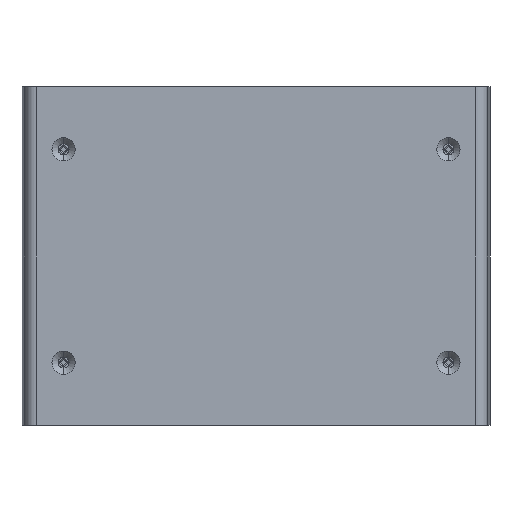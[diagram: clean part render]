
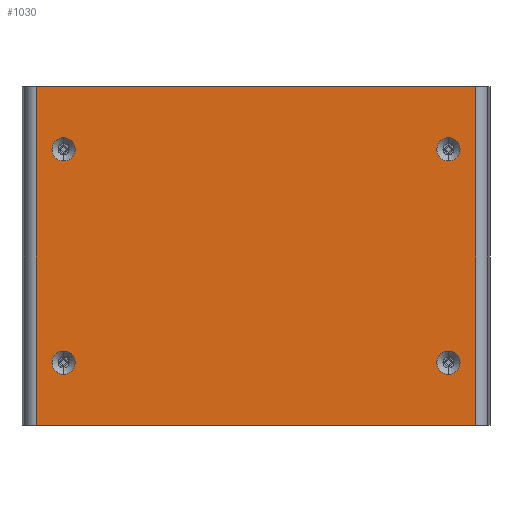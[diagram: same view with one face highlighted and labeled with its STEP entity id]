
A CAD part, front view. The second image highlights one B-rep face of the part: STEP entity #1030.
In plain terms, the highlighted planar face has unit normal (0, -1, 0).
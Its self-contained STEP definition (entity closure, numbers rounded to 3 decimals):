
#166 = FACE_BOUND ( 'NONE', #8485, .T. ) ;
#629 = CIRCLE ( 'NONE', #7143, 4.1 ) ;
#741 = LINE ( 'NONE', #4385, #15169 ) ;
#763 = DIRECTION ( 'NONE',  ( 0., -1., 0. ) ) ;
#910 = VERTEX_POINT ( 'NONE', #2236 ) ;
#1019 = EDGE_CURVE ( 'NONE', #6140, #16206, #10934, .T. ) ;
#1030 = ADVANCED_FACE ( 'NONE', ( #166, #7917, #4165, #6663, #1330 ), #5576, .F. ) ;
#1070 = ORIENTED_EDGE ( 'NONE', *, *, #17581, .F. ) ;
#1316 = DIRECTION ( 'NONE',  ( 0., 0., -1. ) ) ;
#1330 = FACE_OUTER_BOUND ( 'NONE', #15489, .T. ) ;
#1331 = DIRECTION ( 'NONE',  ( 0., -1., 0. ) ) ;
#1752 = ORIENTED_EDGE ( 'NONE', *, *, #6655, .F. ) ;
#1820 = DIRECTION ( 'NONE',  ( 0., 0., -1. ) ) ;
#2236 = CARTESIAN_POINT ( 'NONE',  ( -68.05, 0., 41.8 ) ) ;
#2382 = CARTESIAN_POINT ( 'NONE',  ( 68.05, 0., -33.6 ) ) ;
#2555 = DIRECTION ( 'NONE',  ( 0., -1., 0. ) ) ;
#2583 = DIRECTION ( 'NONE',  ( 0., 1., 0. ) ) ;
#2691 = CARTESIAN_POINT ( 'NONE',  ( 68.05, 0., 41.8 ) ) ;
#3332 = VECTOR ( 'NONE', #15728, 1000. ) ;
#3431 = ORIENTED_EDGE ( 'NONE', *, *, #13832, .T. ) ;
#3683 = AXIS2_PLACEMENT_3D ( 'NONE', #6246, #13019, #11772 ) ;
#3708 = CARTESIAN_POINT ( 'NONE',  ( 68.05, 0., -37.7 ) ) ;
#3721 = DIRECTION ( 'NONE',  ( 0., 0., -1. ) ) ;
#4089 = CARTESIAN_POINT ( 'NONE',  ( -68.05, 0., 37.7 ) ) ;
#4165 = FACE_BOUND ( 'NONE', #10342, .T. ) ;
#4385 = CARTESIAN_POINT ( 'NONE',  ( -82.75, 0., 59.8 ) ) ;
#4428 = CARTESIAN_POINT ( 'NONE',  ( -77.77, 0., -59.8 ) ) ;
#4461 = VERTEX_POINT ( 'NONE', #5539 ) ;
#4518 = CIRCLE ( 'NONE', #3683, 4.1 ) ;
#4727 = ORIENTED_EDGE ( 'NONE', *, *, #17156, .F. ) ;
#4740 = VERTEX_POINT ( 'NONE', #2691 ) ;
#5120 = DIRECTION ( 'NONE',  ( 0., 0., 1. ) ) ;
#5265 = CARTESIAN_POINT ( 'NONE',  ( 68.05, 0., 37.7 ) ) ;
#5338 = ORIENTED_EDGE ( 'NONE', *, *, #14158, .F. ) ;
#5539 = CARTESIAN_POINT ( 'NONE',  ( -68.05, 0., -41.8 ) ) ;
#5576 = PLANE ( 'NONE',  #6200 ) ;
#5626 = CARTESIAN_POINT ( 'NONE',  ( -68.05, 0., -37.7 ) ) ;
#5784 = ORIENTED_EDGE ( 'NONE', *, *, #16134, .F. ) ;
#6140 = VERTEX_POINT ( 'NONE', #16645 ) ;
#6164 = DIRECTION ( 'NONE',  ( 0., 0., -1. ) ) ;
#6175 = CIRCLE ( 'NONE', #14129, 4.1 ) ;
#6200 = AXIS2_PLACEMENT_3D ( 'NONE', #9513, #2583, #15017 ) ;
#6236 = EDGE_LOOP ( 'NONE', ( #7162, #1070 ) ) ;
#6246 = CARTESIAN_POINT ( 'NONE',  ( 68.05, 0., -37.7 ) ) ;
#6409 = CARTESIAN_POINT ( 'NONE',  ( -77.77, 0., 59.8 ) ) ;
#6437 = CARTESIAN_POINT ( 'NONE',  ( 77.77, 0., 59.8 ) ) ;
#6655 = EDGE_CURVE ( 'NONE', #6140, #11279, #16978, .T. ) ;
#6663 = FACE_BOUND ( 'NONE', #12246, .T. ) ;
#6829 = VERTEX_POINT ( 'NONE', #15815 ) ;
#7075 = EDGE_CURVE ( 'NONE', #4740, #11613, #6175, .T. ) ;
#7088 = ORIENTED_EDGE ( 'NONE', *, *, #10600, .F. ) ;
#7143 = AXIS2_PLACEMENT_3D ( 'NONE', #16149, #13295, #12867 ) ;
#7162 = ORIENTED_EDGE ( 'NONE', *, *, #10247, .F. ) ;
#7917 = FACE_BOUND ( 'NONE', #6236, .T. ) ;
#8485 = EDGE_LOOP ( 'NONE', ( #4727, #5784 ) ) ;
#8817 = CIRCLE ( 'NONE', #16503, 4.1 ) ;
#8920 = CIRCLE ( 'NONE', #14035, 4.1 ) ;
#9395 = EDGE_CURVE ( 'NONE', #14696, #16206, #741, .T. ) ;
#9513 = CARTESIAN_POINT ( 'NONE',  ( -82.75, 0., 59.8 ) ) ;
#9629 = AXIS2_PLACEMENT_3D ( 'NONE', #4089, #1331, #11187 ) ;
#9807 = DIRECTION ( 'NONE',  ( 1., 0., 0. ) ) ;
#10247 = EDGE_CURVE ( 'NONE', #4461, #14136, #629, .T. ) ;
#10342 = EDGE_LOOP ( 'NONE', ( #14818, #5338 ) ) ;
#10600 = EDGE_CURVE ( 'NONE', #11613, #4740, #8920, .T. ) ;
#10934 = LINE ( 'NONE', #17443, #13306 ) ;
#11149 = DIRECTION ( 'NONE',  ( 0., -1., 0. ) ) ;
#11187 = DIRECTION ( 'NONE',  ( 0., 0., -1. ) ) ;
#11279 = VERTEX_POINT ( 'NONE', #4428 ) ;
#11291 = AXIS2_PLACEMENT_3D ( 'NONE', #16861, #763, #6164 ) ;
#11292 = ORIENTED_EDGE ( 'NONE', *, *, #7075, .F. ) ;
#11451 = CARTESIAN_POINT ( 'NONE',  ( -82.75, 0., -59.8 ) ) ;
#11606 = ORIENTED_EDGE ( 'NONE', *, *, #1019, .T. ) ;
#11613 = VERTEX_POINT ( 'NONE', #13654 ) ;
#11772 = DIRECTION ( 'NONE',  ( 0., 0., -1. ) ) ;
#12017 = DIRECTION ( 'NONE',  ( 0., -1., 0. ) ) ;
#12237 = DIRECTION ( 'NONE',  ( 0., -1., 0. ) ) ;
#12246 = EDGE_LOOP ( 'NONE', ( #7088, #11292 ) ) ;
#12400 = CARTESIAN_POINT ( 'NONE',  ( 68.05, 0., 37.7 ) ) ;
#12464 = AXIS2_PLACEMENT_3D ( 'NONE', #5626, #11149, #1820 ) ;
#12867 = DIRECTION ( 'NONE',  ( 0., 0., -1. ) ) ;
#13019 = DIRECTION ( 'NONE',  ( 0., -1., 0. ) ) ;
#13295 = DIRECTION ( 'NONE',  ( 0., -1., 0. ) ) ;
#13306 = VECTOR ( 'NONE', #5120, 1000. ) ;
#13654 = CARTESIAN_POINT ( 'NONE',  ( 68.05, 0., 33.6 ) ) ;
#13832 = EDGE_CURVE ( 'NONE', #14696, #11279, #14121, .T. ) ;
#13993 = ORIENTED_EDGE ( 'NONE', *, *, #9395, .F. ) ;
#14035 = AXIS2_PLACEMENT_3D ( 'NONE', #5265, #12017, #17469 ) ;
#14121 = LINE ( 'NONE', #14480, #17604 ) ;
#14129 = AXIS2_PLACEMENT_3D ( 'NONE', #12400, #12237, #1316 ) ;
#14136 = VERTEX_POINT ( 'NONE', #15508 ) ;
#14158 = EDGE_CURVE ( 'NONE', #15557, #6829, #4518, .T. ) ;
#14322 = VERTEX_POINT ( 'NONE', #14888 ) ;
#14374 = DIRECTION ( 'NONE',  ( 0., 0., -1. ) ) ;
#14480 = CARTESIAN_POINT ( 'NONE',  ( -77.77, 0., 59.8 ) ) ;
#14696 = VERTEX_POINT ( 'NONE', #6409 ) ;
#14818 = ORIENTED_EDGE ( 'NONE', *, *, #15533, .F. ) ;
#14888 = CARTESIAN_POINT ( 'NONE',  ( -68.05, 0., 33.6 ) ) ;
#15017 = DIRECTION ( 'NONE',  ( 0., 0., 1. ) ) ;
#15169 = VECTOR ( 'NONE', #9807, 1000. ) ;
#15489 = EDGE_LOOP ( 'NONE', ( #13993, #3431, #1752, #11606 ) ) ;
#15508 = CARTESIAN_POINT ( 'NONE',  ( -68.05, 0., -33.6 ) ) ;
#15533 = EDGE_CURVE ( 'NONE', #6829, #15557, #8817, .T. ) ;
#15557 = VERTEX_POINT ( 'NONE', #2382 ) ;
#15728 = DIRECTION ( 'NONE',  ( -1., 0., 0. ) ) ;
#15815 = CARTESIAN_POINT ( 'NONE',  ( 68.05, 0., -41.8 ) ) ;
#15855 = CIRCLE ( 'NONE', #11291, 4.1 ) ;
#16134 = EDGE_CURVE ( 'NONE', #910, #14322, #15855, .T. ) ;
#16149 = CARTESIAN_POINT ( 'NONE',  ( -68.05, 0., -37.7 ) ) ;
#16169 = CIRCLE ( 'NONE', #9629, 4.1 ) ;
#16181 = CIRCLE ( 'NONE', #12464, 4.1 ) ;
#16206 = VERTEX_POINT ( 'NONE', #6437 ) ;
#16503 = AXIS2_PLACEMENT_3D ( 'NONE', #3708, #2555, #14374 ) ;
#16645 = CARTESIAN_POINT ( 'NONE',  ( 77.77, 0., -59.8 ) ) ;
#16861 = CARTESIAN_POINT ( 'NONE',  ( -68.05, 0., 37.7 ) ) ;
#16978 = LINE ( 'NONE', #11451, #3332 ) ;
#17156 = EDGE_CURVE ( 'NONE', #14322, #910, #16169, .T. ) ;
#17443 = CARTESIAN_POINT ( 'NONE',  ( 77.77, 0., 59.8 ) ) ;
#17469 = DIRECTION ( 'NONE',  ( 0., 0., -1. ) ) ;
#17581 = EDGE_CURVE ( 'NONE', #14136, #4461, #16181, .T. ) ;
#17604 = VECTOR ( 'NONE', #3721, 1000. ) ;
